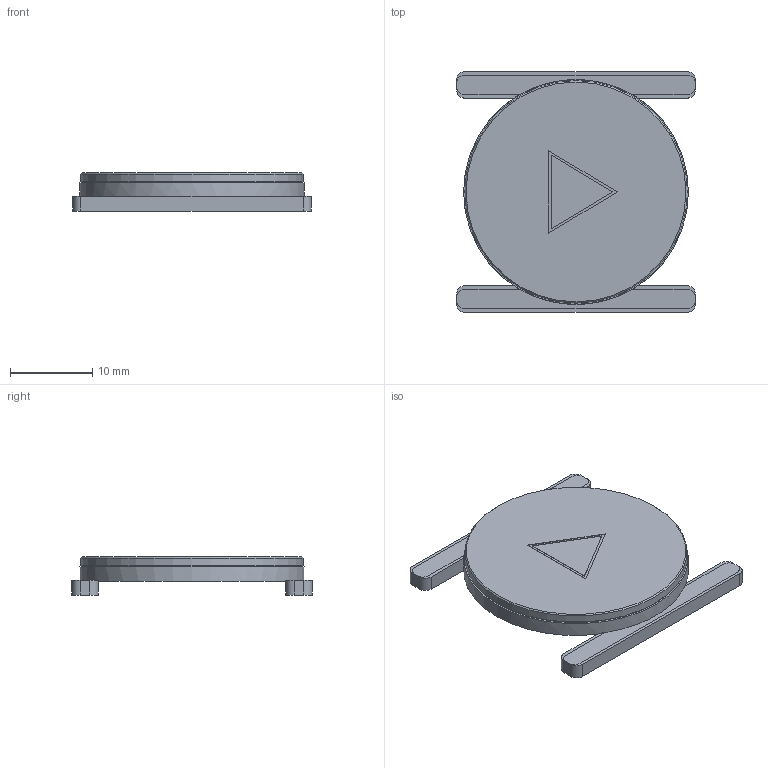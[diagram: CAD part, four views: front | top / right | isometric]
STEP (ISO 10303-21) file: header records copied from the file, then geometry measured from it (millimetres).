
FILE_DESCRIPTION(/* description */ (''),/* implementation_level */ '2;1');
FILE_NAME(/* name */ '01_Play_Button.step',/* time_stamp */ '2026-09-19T10:15:31-07:00',/* author */ (''),/* organization */ (''),/* preprocessor_version */ 'ST-DEVELOPER v20.2',/* originating_system */ 'Autodesk Translation Framework v15.15.0.0',/* authorisation */ '');
FILE_SCHEMA (('AUTOMOTIVE_DESIGN { 1 0 10303 214 3 1 1 }'));
Length unit declared in the file: millimetre
Products named in the file (1): 2026-09-19-10-15-31-061
Bounding box: 29 x 29.2 x 4.65 mm (x, y, z)
Volume: 2035.7 mm3; surface area: 1929.7 mm2
Topology: 1 solids, 1 shells, 56 faces, 149 edges, 99 vertices
Faces by surface type: plane 36, cylinder 19, cone 1
Full cylindrical faces by diameter (mm): 26.8 x1, 27 x1, 27.3 x1
Entity records: 1785 total; most frequent: DIRECTION 310, CARTESIAN_POINT 305, ORIENTED_EDGE 298, EDGE_CURVE 149, AXIS2_PLACEMENT_3D 104, LINE 102, VECTOR 102, VERTEX_POINT 99
